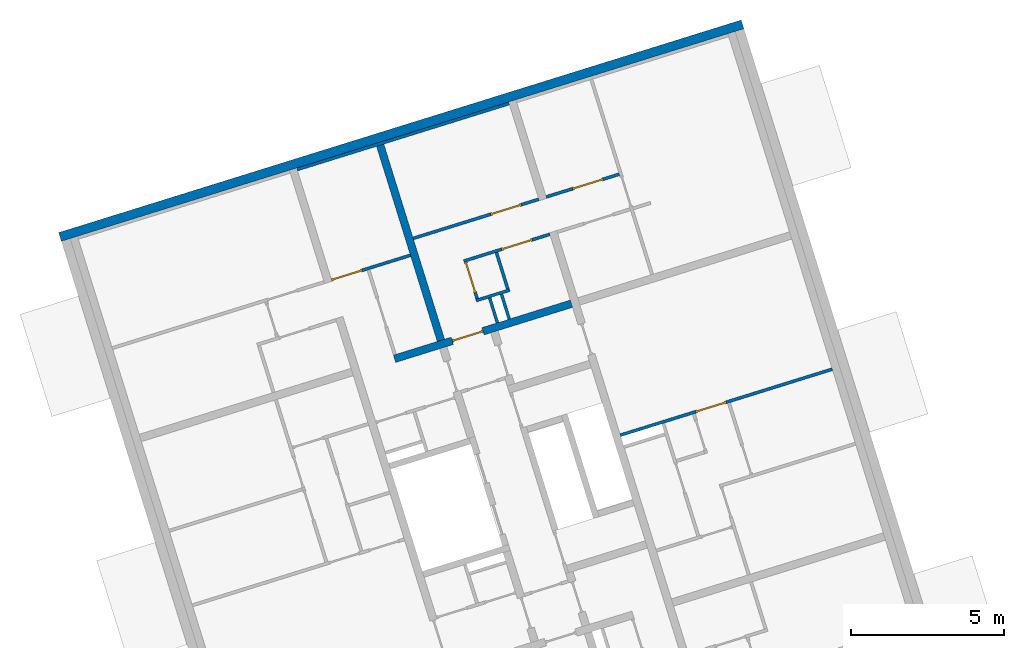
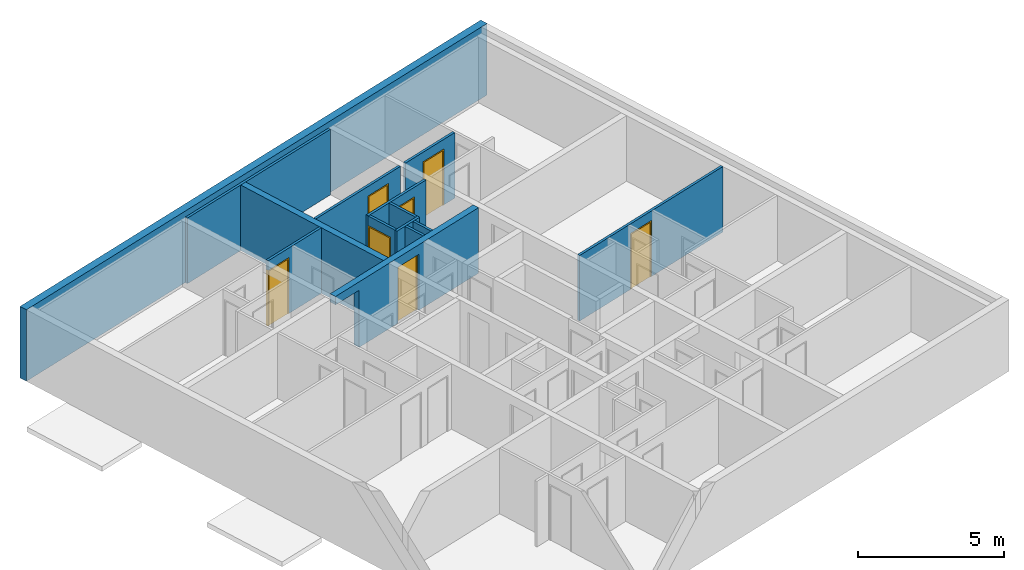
# One storey, part 6 of 9: 14 walls, 7 doors, 9 openings.
"""IFC4 building model written with IfcOpenShell, lengths in metres."""

import ifcopenshell
import ifcopenshell.guid

model = None  # the IFC model being written
_history = None  # IfcOwnerHistory: only IFC2X3 demands one
_inside = {}  # id of a spatial element -> (the spatial element, [elements in it])
_under = {}  # id of a project, library or spatial element -> (it, [spatial elements below it])
_declared = {}  # id of a project -> (the project, [libraries it declares])
_typed = {}  # id of a type object -> (the type object, [elements of that type])
_made_of = {}  # id of a material, layer set ... -> (it, [elements and type objects made of it])


def new_model(schema):
    """Start an empty IFC model of exactly this schema.

    Asked for "IFC4X3", IfcOpenShell would pick the latest addendum, in which some entities
    have other attributes; the version numbers below select the first issue.
    IFC2X3 requires an IfcOwnerHistory on every rooted entity: one is made here for all.
    """
    global model, _history
    if schema == "IFC4X3":
        model = ifcopenshell.file(schema_version=(4, 3, 0, 0))
    else:
        model = ifcopenshell.file(schema=schema)
    _inside.clear()
    _under.clear()
    _declared.clear()
    _typed.clear()
    _made_of.clear()
    _history = None
    if model.schema == "IFC2X3":
        org = make("IfcOrganization", Name="unknown")
        user = make(
            "IfcPersonAndOrganization",
            ThePerson=make("IfcPerson", FamilyName="unknown"),
            TheOrganization=org,
        )
        app = make(
            "IfcApplication",
            ApplicationDeveloper=org,
            Version="unknown",
            ApplicationFullName="unknown",
            ApplicationIdentifier="unknown",
        )
        _history = make(
            "IfcOwnerHistory",
            OwningUser=user,
            OwningApplication=app,
            ChangeAction="ADDED",
            CreationDate=0,
        )
    return model


def make(cls, **values):
    """One entity of the class cls with the attributes given. An attribute that is None is left unset."""
    return model.create_entity(
        cls, **{name: value for name, value in values.items() if value is not None}
    )


def entity(cls, *values):
    """Any entity or typed value of the class cls, its attributes in the order of the schema. None: left unset."""
    e = model.create_entity(cls)
    for i, value in enumerate(values):
        if value is not None:
            e[i] = value
    return e


def rooted(cls, **values):
    """An entity with a GlobalId (a new one), such as an element, a storey or a relation."""
    return make(cls, GlobalId=ifcopenshell.guid.new(), OwnerHistory=_history, **values)


def si_unit(unit_type, name, prefix=None):
    """IfcSIUnit, for example si_unit("LENGTHUNIT", "METRE", prefix="MILLI")."""
    return make("IfcSIUnit", UnitType=unit_type, Prefix=prefix, Name=name)


def converted_unit(unit_type, name, factor, base, dimensions=None, offset=None):
    """IfcConversionBasedUnit, such as the inch: factor (a typed value) times the base unit."""
    return make(
        "IfcConversionBasedUnit"
        if offset is None
        else "IfcConversionBasedUnitWithOffset",
        ConversionOffset=offset,
        Dimensions=None
        if dimensions is None
        else entity("IfcDimensionalExponents", *dimensions),
        UnitType=unit_type,
        Name=name,
        ConversionFactor=make(
            "IfcMeasureWithUnit", ValueComponent=factor, UnitComponent=base
        ),
    )


def assignment(units):
    """IfcUnitAssignment: the units of a project."""
    return None if units is None else make("IfcUnitAssignment", Units=units)


def point(xyz):
    """IfcCartesianPoint."""
    return None if xyz is None else make("IfcCartesianPoint", Coordinates=xyz)


def direction(xyz):
    """IfcDirection."""
    return None if xyz is None else make("IfcDirection", DirectionRatios=xyz)


def frame(location, z_axis=None, x_axis=None):
    """IfcAxis2Placement3D, a coordinate frame: its origin and axes. An axis left out is left unset."""
    return make(
        "IfcAxis2Placement3D",
        Location=point(location),
        Axis=direction(z_axis),
        RefDirection=direction(x_axis),
    )


def origin():
    """The frame at (0, 0, 0) with its axes left unset."""
    return frame((0.0, 0.0, 0.0))


def place(relative_to, where):
    """IfcLocalPlacement: puts the frame where relative to a parent placement (None: the world)."""
    return make(
        "IfcLocalPlacement", PlacementRelTo=relative_to, RelativePlacement=where
    )


def context(
    kind, dimensions, precision=None, world=None, true_north=None, identifier=None
):
    """IfcGeometricRepresentationContext, for example the 3D "Model" context."""
    return make(
        "IfcGeometricRepresentationContext",
        ContextIdentifier=identifier,
        ContextType=kind,
        CoordinateSpaceDimension=dimensions,
        Precision=precision,
        WorldCoordinateSystem=world,
        TrueNorth=true_north,
    )


def subcontext(parent, identifier, kind, view, scale=None):
    """IfcGeometricRepresentationSubContext, for example "Body" below "Model"."""
    return make(
        "IfcGeometricRepresentationSubContext",
        ContextIdentifier=identifier,
        ContextType=kind,
        ParentContext=parent,
        TargetScale=scale,
        TargetView=view,
    )


def project(units=None, contexts=None):
    """IfcProject with its units and contexts."""
    return rooted(
        "IfcProject",
        Name="project",
        RepresentationContexts=contexts,
        UnitsInContext=assignment(units),
    )


def spatial(cls, under=None, at=None, **own):
    """A site, building, storey or space (cls), placed at a placement, below another one or the project."""
    s = rooted(cls, ObjectPlacement=at, **own)
    if under is not None:
        _under.setdefault(under.id(), (under, []))[1].append(s)
    return s


def point_list(points):
    """IfcCartesianPointList2D or 3D."""
    cls = (
        "IfcCartesianPointList2D" if len(points[0]) == 2 else "IfcCartesianPointList3D"
    )
    return make(cls, CoordList=points)


def indexed_curve(points, segments=None, self_intersect=None):
    """IfcIndexedPolyCurve: lines and arcs through numbered points (the first is 1)."""
    return make(
        "IfcIndexedPolyCurve",
        Points=point_list(points),
        Segments=segments,
        SelfIntersect=self_intersect,
    )


def outline(outer, holes=None, kind="AREA"):
    """IfcArbitraryClosedProfileDef: a profile drawn as a closed curve; with holes, ...WithVoids."""
    if holes is None:
        return make("IfcArbitraryClosedProfileDef", ProfileType=kind, OuterCurve=outer)
    return make(
        "IfcArbitraryProfileDefWithVoids",
        ProfileType=kind,
        OuterCurve=outer,
        InnerCurves=holes,
    )


def extrude(swept, where, along, depth):
    """IfcExtrudedAreaSolid: the profile swept, set in the frame where, extruded along a direction by depth."""
    return make(
        "IfcExtrudedAreaSolid",
        SweptArea=swept,
        Position=where,
        ExtrudedDirection=direction(along),
        Depth=depth,
    )


def polygons(points, faces, closed=None, point_numbers=None):
    """IfcPolygonalFaceSet: a face is its outer loop, then its inner loops; points numbered from 1."""
    made = []
    for loops in faces:
        if len(loops) == 1:
            made.append(make("IfcIndexedPolygonalFace", CoordIndex=loops[0]))
        else:
            made.append(
                make(
                    "IfcIndexedPolygonalFaceWithVoids",
                    CoordIndex=loops[0],
                    InnerCoordIndices=loops[1:],
                )
            )
    return make(
        "IfcPolygonalFaceSet",
        Coordinates=point_list(points),
        Closed=closed,
        Faces=made,
        PnIndex=point_numbers,
    )


def shape(context_of_items, identifier, shape_type, items):
    """IfcShapeRepresentation: the items that make up one representation, for example the "Body"."""
    return make(
        "IfcShapeRepresentation",
        ContextOfItems=context_of_items,
        RepresentationIdentifier=identifier,
        RepresentationType=shape_type,
        Items=items,
    )


def source(mapping_origin, context_of_items, identifier, shape_type, items):
    """IfcRepresentationMap: a shape defined once, which mapped items show again and again."""
    return make(
        "IfcRepresentationMap",
        MappingOrigin=mapping_origin,
        MappedRepresentation=shape(context_of_items, identifier, shape_type, items),
    )


def transform(
    local_origin,
    x_axis=None,
    y_axis=None,
    z_axis=None,
    scale=None,
    scale2=None,
    scale3=None,
    uniform=True,
):
    """IfcCartesianTransformationOperator3D, or its non-uniform kind. x_axis, y_axis, z_axis: its Axis1, 2, 3."""
    if uniform:
        return make(
            "IfcCartesianTransformationOperator3D",
            Axis1=direction(x_axis),
            Axis2=direction(y_axis),
            LocalOrigin=point(local_origin),
            Scale=scale,
            Axis3=direction(z_axis),
        )
    return make(
        "IfcCartesianTransformationOperator3DnonUniform",
        Axis1=direction(x_axis),
        Axis2=direction(y_axis),
        LocalOrigin=point(local_origin),
        Scale=scale,
        Axis3=direction(z_axis),
        Scale2=scale2,
        Scale3=scale3,
    )


def mapped(mapping_source, mapping_target):
    """IfcMappedItem: shows the shape of a source again, moved by a transform."""
    return make(
        "IfcMappedItem", MappingSource=mapping_source, MappingTarget=mapping_target
    )


def material(Name=None, Category=None):
    """IfcMaterial."""
    return make("IfcMaterial", Name=Name, Category=Category)


def constituent(of_material, Name=None, Category=None, fraction=None):
    """IfcMaterialConstituent: one of the materials an element consists of."""
    return make(
        "IfcMaterialConstituent",
        Name=Name,
        Material=of_material,
        Fraction=fraction,
        Category=Category,
    )


def constituent_set(constituents=None, Name=None):
    """IfcMaterialConstituentSet."""
    return make(
        "IfcMaterialConstituentSet", Name=Name, MaterialConstituents=constituents
    )


def made_of(thing, what):
    """Note that an element or type object is made of a material, layer set ...; save() writes the relation."""
    if what is not None:
        _made_of.setdefault(what.id(), (what, []))[1].append(thing)
    return thing


def type_object(cls, material=None, **own):
    """A type object (cls), such as IfcWallType, which elements share."""
    return made_of(rooted(cls, **own), material)


def type_shapes(of_type, sources):
    """Give a type object the sources (RepresentationMaps) that its elements show as mapped items."""
    of_type.RepresentationMaps = sources


def element(
    cls,
    number,
    at=None,
    inside=None,
    cuts=None,
    type_object=None,
    material=None,
    context=None,
    identifier="Body",
    shape_type=None,
    held_by="IfcProductDefinitionShape",
    body=None,
    shapes=None,
    **own,
):
    """One element of the class cls, such as IfcWall. Its Tag is "e" and its number.

    at: its placement. inside: the storey or other place that contains it. cuts: it is an
    opening in that element (IfcRelVoidsElement). A single representation is given by context,
    identifier, shape_type and body (its items); several are given by shapes. held_by: the class
    of the entity that holds the representations. save() writes the other relations.
    """
    e = rooted(cls, Tag="e%d" % number, ObjectPlacement=at, **own)
    if body is not None:
        shapes = [shape(context, identifier, shape_type, body)]
    if shapes is not None:
        e.Representation = make(held_by, Representations=shapes)
    if inside is not None:
        _inside.setdefault(inside.id(), (inside, []))[1].append(e)
    if cuts is not None:
        rooted(
            "IfcRelVoidsElement", RelatingBuildingElement=cuts, RelatedOpeningElement=e
        )
    if type_object is not None:
        _typed.setdefault(type_object.id(), (type_object, []))[1].append(e)
    return made_of(e, material)


def fill(opening, filler):
    """IfcRelFillsElement: the door or window that sits in an opening."""
    return rooted(
        "IfcRelFillsElement",
        RelatingOpeningElement=opening,
        RelatedBuildingElement=filler,
    )


def aggregate(whole, parts):
    """IfcRelAggregates: a whole, such as a stair, and the parts it consists of."""
    return rooted("IfcRelAggregates", RelatingObject=whole, RelatedObjects=parts)


def save(model, path):
    """Write the relations noted so far, then the file.

    IfcRelAggregates (storeys below a building ...), IfcRelContainedInSpatialStructure (elements
    in a storey), IfcRelDefinesByType, IfcRelAssociatesMaterial and IfcRelDeclares: one each for
    every whole, place, type object, material and project.
    """
    for whole, parts in _under.values():
        aggregate(whole, parts)
    for where, things in _inside.values():
        rooted(
            "IfcRelContainedInSpatialStructure",
            RelatedElements=things,
            RelatingStructure=where,
        )
    for kind, things in _typed.values():
        rooted("IfcRelDefinesByType", RelatedObjects=things, RelatingType=kind)
    for what, things in _made_of.values():
        rooted("IfcRelAssociatesMaterial", RelatedObjects=things, RelatingMaterial=what)
    for by, libraries in _declared.values():
        rooted("IfcRelDeclares", RelatingContext=by, RelatedDefinitions=libraries)
    model.write(path)


model = new_model("IFC4")

# Units and contexts
model_context = context("Model", 3, precision=1e-05, world=origin(), true_north=direction((6.12323399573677e-17, 1.0)))
body_context = subcontext(model_context, "Body", "Model", "MODEL_VIEW")
ifc_project = project(units=[si_unit("LENGTHUNIT", "METRE"), si_unit("AREAUNIT", "SQUARE_METRE"), si_unit("VOLUMEUNIT", "CUBIC_METRE"), converted_unit("PLANEANGLEUNIT", "DEGREE", entity("IfcPlaneAngleMeasure", 0.0174532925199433), si_unit("PLANEANGLEUNIT", "RADIAN"), dimensions=[0, 0, 0, 0, 0, 0, 0])], contexts=[model_context])

# Site, building, storey
site_placement = place(None, frame((13.1347999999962, 11.9886000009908, 0.0), z_axis=(0.0, 0.0, 1.0), x_axis=(0.954770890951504, 0.297342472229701, 0.0)))
site = spatial("IfcSite", under=ifc_project, at=site_placement, Name="Schiehaven", CompositionType="ELEMENT")
building_placement = place(site_placement, origin())
building = spatial("IfcBuilding", under=site, at=building_placement, Name="VORM huis", CompositionType="ELEMENT")
storey_placement = place(building_placement, frame((0.0, 0.0, 24.9)))
storey = spatial("IfcBuildingStorey", under=building, at=storey_placement, Name="08 achtste verdieping", CompositionType="ELEMENT", Elevation=24.9)

# Wall, openings, door
ifc_material_1 = material(Name="beton_gewapend_ihw", Category="Miscellaneous")
wall_type_1 = type_object("IfcWallType", Name="Basic Wall:28_WA_skelet_wand 250mm_gen", PredefinedType="STANDARD")
wall_1_placement = place(storey_placement, frame((12.6250000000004, 22.1999999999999, 0.0)))
wall_1 = element("IfcWall", 1, at=wall_1_placement, inside=storey, type_object=wall_type_1, material=ifc_material_1, Name="Constructieve wand", ObjectType="Wand", PredefinedType="NOTDEFINED", context=body_context, shape_type="Tessellation", body=[
    polygons([(4.225, -0.124999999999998, 2.34999999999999), (4.225, -0.124999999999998, 0.0), (7.25, -0.124999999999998, 0.0), (7.25, -0.124999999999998, 2.75), (-9.32382171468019e-16, -0.124999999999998, 2.75), (1.23335208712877e-15, -0.124999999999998, 2.4), (1.2, -0.124999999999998, 2.4), (1.2, -0.124999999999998, 0.0), (3.175, -0.124999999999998, 0.0), (3.175, -0.124999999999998, 2.34999999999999), (7.25, 0.125000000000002, 0.0), (4.225, 0.125000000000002, 0.0), (4.225, 0.125000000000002, 2.34999999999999), (3.175, 0.125000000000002, 2.34999999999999), (3.175, 0.125000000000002, 0.0), (1.2, 0.124999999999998, 0.0), (1.2, 0.125000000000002, 2.4), (1.38467104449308e-15, 0.125000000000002, 2.4), (1.38467104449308e-15, 0.125000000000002, 2.75), (7.25, 0.125000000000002, 2.75)], [[[1, 2, 3, 4, 5, 6, 7, 8, 9, 10]], [[11, 12, 13, 14, 15, 16, 17, 18, 19, 20]], [[9, 8, 16, 15]], [[5, 4, 20, 19]], [[5, 19, 18, 6]], [[15, 14, 10, 9]], [[13, 12, 2, 1]], [[14, 13, 1, 10]], [[7, 17, 16, 8]], [[17, 7, 6, 18]], [[4, 3, 11, 20]], [[3, 2, 12, 11]]], closed=True),
])
opening_1_placement = place(wall_1_placement, origin())
element("IfcOpeningElement", 2, at=opening_1_placement, cuts=wall_1, Name="Constructieve wand", PredefinedType="OPENING", context=body_context, shape_type="SweptSolid", body=[
    extrude(outline(indexed_curve([(-1.2, -0.6), (1.2, -0.6), (1.2, 0.6), (-1.2, 0.6), (-1.2, -0.6)], self_intersect=False)), frame((0.599999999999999, -0.125000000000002, 1.2), z_axis=(0.0, 1.0, 0.0), x_axis=(0.0, 0.0, -1.0)), (0.0, 0.0, 1.0), 0.250000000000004),
])
opening_2_placement = place(wall_1_placement, frame((4.22500000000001, 0.124999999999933, 0.0)))
opening_2 = element("IfcOpeningElement", 3, at=opening_2_placement, cuts=wall_1, Name="Woningtoegangsdeur", PredefinedType="OPENING", context=body_context, shape_type="SweptSolid", body=[
    extrude(outline(indexed_curve([(2.34999999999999, 1.05), (0.0, 1.05), (0.0, 1.08286712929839e-15), (2.34999999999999, 1.08286712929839e-15), (2.34999999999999, 1.05)], self_intersect=False)), frame((0.0, 0.0, 0.0), z_axis=(0.0, -1.0, 0.0), x_axis=(0.0, 0.0, 1.0)), (0.0, 0.0, 1.0), 0.25),
])
ifc_material_2 = material(Name="PD_a_binnenwandopeningen", Category="Miscellaneous")
ifc_constituent_1 = constituent(ifc_material_2, Name="PD_a_binnenwandopeningen", Category="Miscellaneous")
ifc_material_3 = material(Name="metaal_aluminium_ntb", Category="Miscellaneous")
ifc_constituent_2 = constituent(ifc_material_3, Name="metaal_aluminium_ntb", Category="Miscellaneous")
ifc_constituent_set_1 = constituent_set(constituents=[ifc_constituent_1, ifc_constituent_2])
door_type_1 = type_object("IfcDoorType", Name="32_DO_binnendeur enkel:woningtoegangsdeur", OperationType="REVOLVING", PredefinedType="DOOR")
shared_shape_1 = source(origin(), body_context, "Body", "SweptSolid", [
    extrude(outline(indexed_curve([(-1.16249999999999, -0.525000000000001), (1.18749999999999, -0.525), (1.18749999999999, 0.525000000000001), (-1.16249999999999, 0.525000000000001), (-1.16249999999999, 0.475), (1.13749999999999, 0.475), (1.13749999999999, -0.475), (-1.16249999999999, -0.475), (-1.16249999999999, -0.525000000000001)], self_intersect=False)), frame((0.525000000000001, 0.0749999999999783, 1.16249999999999), z_axis=(0.0, 1.0, 0.0), x_axis=(0.0, 0.0, 1.0)), (0.0, 0.0, 1.0), 0.1),
    extrude(outline(indexed_curve([(-0.025, -0.475), (0.025, -0.475), (0.025, 0.475), (-0.025, 0.475), (-0.025, -0.475)], self_intersect=False)), frame((0.525000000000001, 0.12499999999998, 0.0), z_axis=(0.0, 0.0, 1.0), x_axis=(0.0, 1.0, 0.0)), (0.0, 0.0, 1.0), 2.29999999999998),
])
door_1_placement = place(opening_2_placement, frame((0.0, 0.0, 0.0), z_axis=(0.0, 0.0, 1.0), x_axis=(-1.0, 0.0, 0.0)))
door_1 = element("IfcDoor", 4, at=door_1_placement, inside=storey, type_object=door_type_1, material=ifc_constituent_set_1, Name="Woningtoegangsdeur", ObjectType="Deur", OperationType="REVOLVING", OverallHeight=2.34999999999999, OverallWidth=1.05, PredefinedType="DOOR", context=body_context, shape_type="MappedRepresentation", body=[
    mapped(shared_shape_1, transform((0.0, 0.0, 0.0), scale=1.0)),
])
fill(opening_2, door_1)

# Walls
ifc_material_4 = material(Name="ntb_ntb_ntb", Category="Miscellaneous")
wall_type_2 = type_object("IfcWallType", Name="Basic Wall:21_WA_gevel_binnenspouwwand 100mm_gen", PredefinedType="STANDARD")
wall_2_placement = place(storey_placement, frame((19.875, 29.05, 0.0), z_axis=(0.0, 0.0, 1.0), x_axis=(-1.0, 0.0, 0.0)))
element("IfcWall", 5, at=wall_2_placement, inside=storey, type_object=wall_type_2, material=ifc_material_4, Name="Binnenspouwblad", ObjectType="Wand", PredefinedType="NOTDEFINED", context=body_context, shape_type="SweptSolid", body=[
    extrude(outline(indexed_curve([(7.24999999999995, 0.0500000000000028), (-8.07179175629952e-18, 0.0500000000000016), (8.07179175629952e-18, -0.0500000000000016), (7.24999999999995, -0.0500000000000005), (7.24999999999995, 0.0500000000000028)], self_intersect=False)), origin(), (0.0, 0.0, 1.0), 2.75),
])
wall_type_3 = type_object("IfcWallType", Name="Basic Wall: 300mm_gen", PredefinedType="STANDARD")
wall_3_placement = place(storey_placement, frame((4.57500000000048, 29.25, 0.0)))
element("IfcWall", 6, at=wall_3_placement, inside=storey, type_object=wall_type_3, material=ifc_material_4, Name="Gevelwand", ObjectType="Wand", PredefinedType="NOTDEFINED", context=body_context, shape_type="SweptSolid", body=[
    extrude(outline(indexed_curve([(23.35, 0.149999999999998), (-1.57429718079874e-16, 0.150000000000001), (1.57429718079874e-16, -0.150000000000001), (23.35, -0.150000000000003), (23.35, 0.149999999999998)], self_intersect=False)), origin(), (0.0, 0.0, 1.0), 3.0),
])
wall_type_4 = type_object("IfcWallType", Name="Basic Wall:22_WA_afbouw_binnenwand 250mm_gen", PredefinedType="STANDARD")
wall_4_placement = place(storey_placement, frame((15.4500000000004, 22.3249999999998, 0.0), z_axis=(0.0, 0.0, 1.0), x_axis=(0.0, 1.0, 0.0)))
element("IfcWall", 7, at=wall_4_placement, inside=storey, type_object=wall_type_4, material=ifc_material_4, Name="Binnenwand", ObjectType="Wand", PredefinedType="NOTDEFINED", context=body_context, shape_type="SweptSolid", body=[
    extrude(outline(indexed_curve([(6.67500000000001, 0.124999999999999), (2.02524027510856e-15, 0.125), (-2.02524027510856e-15, -0.125), (6.67500000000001, -0.125), (6.67500000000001, 0.124999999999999)], self_intersect=False)), origin(), (0.0, 0.0, 1.0), 2.75),
])

# Wall, opening, door
wall_type_5 = type_object("IfcWallType", Name="Basic Wall:22_WA_afbouw_binnenwand 100mm_gen", PredefinedType="STANDARD")
wall_5_placement = place(storey_placement, frame((19.8750000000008, 25.7750000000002, 0.0), z_axis=(0.0, 0.0, 1.0), x_axis=(-1.0, 0.0, 0.0)))
wall_5 = element("IfcWall", 8, at=wall_5_placement, inside=storey, type_object=wall_type_5, material=ifc_material_4, Name="Binnenwand", ObjectType="Wand", PredefinedType="NOTDEFINED", context=body_context, shape_type="Tessellation", body=[
    polygons([(1.41600119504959e-15, -0.0499999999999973, 0.0), (0.599999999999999, -0.0499999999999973, 0.0), (0.600000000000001, -0.0499999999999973, 2.34999999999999), (1.65, -0.0500000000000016, 2.34999999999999), (1.65, -0.0500000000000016, 0.0), (4.30000000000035, -0.0500000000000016, 0.0), (4.30000000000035, -0.0500000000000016, 2.75), (1.41600119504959e-15, -0.0499999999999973, 2.75), (0.600000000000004, 0.0500000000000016, 2.34999999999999), (0.600000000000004, 0.0500000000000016, 0.0), (-3.19070089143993e-17, 0.0500000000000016, 0.0), (-3.19070089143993e-17, 0.0500000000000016, 2.75), (4.30000000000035, 0.0499999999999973, 2.75), (4.30000000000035, 0.0499999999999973, 0.0), (1.65, 0.0499999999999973, 0.0), (1.65, 0.0499999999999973, 2.34999999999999)], [[[1, 2, 3, 4, 5, 6, 7, 8]], [[9, 10, 11, 12, 13, 14, 15, 16]], [[11, 10, 2, 1]], [[7, 6, 14, 13]], [[8, 7, 13, 12]], [[1, 8, 12, 11]], [[5, 4, 16, 15]], [[3, 2, 10, 9]], [[4, 3, 9, 16]], [[15, 14, 6, 5]]], closed=True),
])
opening_3_placement = place(wall_5_placement, frame((0.599999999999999, -0.0500000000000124, 0.0)))
opening_3 = element("IfcOpeningElement", 9, at=opening_3_placement, cuts=wall_5, Name="Binnendeur", PredefinedType="OPENING", context=body_context, shape_type="SweptSolid", body=[
    extrude(outline(indexed_curve([(2.34999999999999, 1.05), (0.0, 1.05), (0.0, 1.35358391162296e-15), (2.34999999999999, 1.35358391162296e-15), (2.34999999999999, 1.05)], self_intersect=False)), frame((0.0, 0.0, 0.0), z_axis=(0.0, 1.0, 0.0), x_axis=(0.0, 0.0, 1.0)), (0.0, 0.0, 1.0), 0.1),
])
ifc_constituent_3 = constituent(ifc_material_2, Name="PD_a_binnenwandopeningen", Category="Miscellaneous")
ifc_constituent_4 = constituent(ifc_material_3, Name="metaal_aluminium_ntb", Category="Miscellaneous")
ifc_constituent_set_2 = constituent_set(constituents=[ifc_constituent_3, ifc_constituent_4])
door_type_2 = type_object("IfcDoorType", Name="32_DO_binnendeur enkel:binnendeur", OperationType="REVOLVING", PredefinedType="DOOR")
shared_shape_2 = source(origin(), body_context, "Body", "SweptSolid", [
    extrude(outline(indexed_curve([(-1.16249999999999, -0.525000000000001), (1.18749999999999, -0.525), (1.18749999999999, 0.525), (-1.16249999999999, 0.525), (-1.16249999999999, 0.475), (1.13749999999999, 0.475), (1.13749999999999, -0.475), (-1.16249999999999, -0.475), (-1.16249999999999, -0.525000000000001)], self_intersect=False)), frame((0.525000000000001, 0.0, 1.16249999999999), z_axis=(0.0, 1.0, 0.0), x_axis=(0.0, 0.0, 1.0)), (0.0, 0.0, 1.0), 0.1),
    extrude(outline(indexed_curve([(-0.025, -0.475), (0.025, -0.475), (0.025, 0.475), (-0.025, 0.475), (-0.025, -0.475)], self_intersect=False)), frame((0.525000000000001, 0.0499999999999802, 0.0), z_axis=(0.0, 0.0, 1.0), x_axis=(0.0, 1.0, 0.0)), (0.0, 0.0, 1.0), 2.29999999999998),
])
type_shapes(door_type_2, [shared_shape_2])
door_2_placement = place(opening_3_placement, origin())
door_2 = element("IfcDoor", 10, at=door_2_placement, inside=storey, type_object=door_type_2, material=ifc_constituent_set_2, Name="Binnendeur", ObjectType="Deur", OperationType="REVOLVING", OverallHeight=2.34999999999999, OverallWidth=1.05, PredefinedType="DOOR", context=body_context, shape_type="MappedRepresentation", body=[
    mapped(shared_shape_2, transform((0.0, 0.0, 0.0), scale=1.0)),
])
fill(opening_3, door_2)

# Wall, openings, door
wall_6_placement = place(storey_placement, frame((19.8750000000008, 24.5750000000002, 0.0), z_axis=(0.0, 0.0, 1.0), x_axis=(-1.0, 0.0, 0.0)))
wall_6 = element("IfcWall", 11, at=wall_6_placement, inside=storey, type_object=wall_type_5, material=ifc_material_4, Name="Binnenwand", ObjectType="Wand", PredefinedType="NOTDEFINED", context=body_context, shape_type="Tessellation", body=[
    polygons([(1.65, -0.0500000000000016, 2.34999999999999), (1.65, -0.0500000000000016, 0.0), (2.94100000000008, -0.0500000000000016, 0.0), (2.94100000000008, -0.0500000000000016, 2.75), (1.36697681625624e-15, -0.0499999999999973, 2.75), (1.36697681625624e-15, -0.0499999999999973, 0.0), (0.599999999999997, -0.0499999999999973, 0.0), (0.599999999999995, -0.0499999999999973, 2.34999999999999), (2.94100000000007, 0.0499999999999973, 0.0), (1.89100000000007, 0.0499999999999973, 0.0), (1.79100000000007, 0.0500000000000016, 0.0), (1.65, 0.0499999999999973, 0.0), (1.65, 0.0499999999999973, 2.34999999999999), (0.6, 0.0500000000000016, 2.34999999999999), (0.6, 0.0500000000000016, 0.0), (-8.09313877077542e-17, 0.0500000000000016, 0.0), (-8.09313877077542e-17, 0.0500000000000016, 2.75), (1.79100000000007, 0.0500000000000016, 2.75), (1.89100000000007, 0.0499999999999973, 2.75), (2.84100000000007, 0.0499999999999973, 2.75), (2.94100000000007, 0.0499999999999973, 2.75), (2.94100000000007, 0.0499999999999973, 2.34999999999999)], [[[1, 2, 3, 4, 5, 6, 7, 8]], [[9, 10, 11, 12, 13, 14, 15, 16, 17, 18, 19, 20, 21, 22]], [[7, 6, 16, 15]], [[5, 4, 21, 20, 19, 18, 17]], [[6, 5, 17, 16]], [[15, 14, 8, 7]], [[13, 12, 2, 1]], [[14, 13, 1, 8]], [[4, 3, 9, 22, 21]], [[3, 2, 12, 11, 10, 9]]], closed=True),
])
opening_4_placement = place(wall_6_placement, origin())
element("IfcOpeningElement", 12, at=opening_4_placement, cuts=wall_6, Name="Binnendeur", PredefinedType="OPENING", context=body_context, shape_type="SweptSolid", body=[
    extrude(outline(indexed_curve([(-0.0499999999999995, -1.17499999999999), (0.0500000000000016, -1.17499999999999), (0.0500000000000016, 1.17499999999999), (-0.0499999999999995, 1.17499999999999), (-0.0499999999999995, -1.17499999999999)], self_intersect=False)), frame((2.89100000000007, 0.0499999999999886, 1.17499999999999), z_axis=(0.0, 1.0, 0.0), x_axis=(-1.0, 0.0, 0.0)), (0.0, 0.0, 1.0), 1.05),
])
opening_5_placement = place(wall_6_placement, frame((1.65, 0.0499999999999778, 0.0)))
opening_5 = element("IfcOpeningElement", 13, at=opening_5_placement, cuts=wall_6, Name="Binnendeur", PredefinedType="OPENING", context=body_context, shape_type="SweptSolid", body=[
    extrude(outline(indexed_curve([(2.34999999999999, 1.05), (0.0, 1.05), (0.0, 1.35358391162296e-15), (2.34999999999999, 1.35358391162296e-15), (2.34999999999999, 1.05)], self_intersect=False)), frame((0.0, 0.0, 0.0), z_axis=(0.0, -1.0, 0.0), x_axis=(0.0, 0.0, 1.0)), (0.0, 0.0, 1.0), 0.1),
])
ifc_constituent_5 = constituent(ifc_material_2, Name="PD_a_binnenwandopeningen", Category="Miscellaneous")
ifc_constituent_6 = constituent(ifc_material_3, Name="metaal_aluminium_ntb", Category="Miscellaneous")
ifc_constituent_set_3 = constituent_set(constituents=[ifc_constituent_5, ifc_constituent_6])
door_3_placement = place(opening_5_placement, frame((0.0, 0.0, 0.0), z_axis=(0.0, 0.0, 1.0), x_axis=(-1.0, 0.0, 0.0)))
door_3 = element("IfcDoor", 14, at=door_3_placement, inside=storey, type_object=door_type_2, material=ifc_constituent_set_3, Name="Binnendeur", ObjectType="Deur", OperationType="REVOLVING", OverallHeight=2.34999999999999, OverallWidth=1.05, PredefinedType="DOOR", context=body_context, shape_type="MappedRepresentation", body=[
    mapped(shared_shape_2, transform((0.0, 0.0, 0.0), scale=1.0)),
])
fill(opening_5, door_3)

# Wall, opening, door
wall_7_placement = place(storey_placement, frame((16.9840000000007, 24.5250000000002, 0.0), z_axis=(0.0, 0.0, 1.0), x_axis=(0.0, -1.0, 0.0)))
wall_7 = element("IfcWall", 15, at=wall_7_placement, inside=storey, type_object=wall_type_5, material=ifc_material_4, Name="Binnenwand", ObjectType="Wand", PredefinedType="NOTDEFINED", context=body_context, shape_type="Tessellation", body=[
    polygons([(1.24999999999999, -0.0500000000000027, 2.75), (0.0, -0.0500000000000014, 2.75), (0.0, -0.0500000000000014, 2.34999999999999), (1.05, -0.050000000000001, 2.34999999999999), (1.05, -0.050000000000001, 0.0), (1.24999999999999, -0.0500000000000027, 0.0), (0.0, 0.0499999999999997, 2.75), (1.25, 0.0500000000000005, 2.75), (1.25, 0.0500000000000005, 0.0), (1.05, 0.0500000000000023, 0.0), (1.05, 0.0500000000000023, 2.34999999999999), (0.0, 0.0499999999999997, 2.34999999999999)], [[[1, 2, 3, 4, 5, 6]], [[7, 8, 9, 10, 11, 12]], [[9, 6, 5, 10]], [[2, 1, 8, 7]], [[4, 11, 10, 5]], [[11, 4, 3, 12]], [[1, 6, 9, 8]], [[2, 7, 12, 3]]], closed=True),
])
opening_6_placement = place(wall_7_placement, frame((1.05, 0.0499999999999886, 0.0)))
opening_6 = element("IfcOpeningElement", 16, at=opening_6_placement, cuts=wall_7, Name="Binnendeur", PredefinedType="OPENING", context=body_context, shape_type="SweptSolid", body=[
    extrude(outline(indexed_curve([(2.34999999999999, 1.05), (0.0, 1.05), (0.0, 0.0), (2.34999999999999, 0.0), (2.34999999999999, 1.05)], self_intersect=False)), frame((0.0, 0.0, 0.0), z_axis=(0.0, -1.0, 0.0), x_axis=(0.0, 0.0, 1.0)), (0.0, 0.0, 1.0), 0.1),
])
ifc_constituent_7 = constituent(ifc_material_2, Name="PD_a_binnenwandopeningen", Category="Miscellaneous")
ifc_constituent_8 = constituent(ifc_material_3, Name="metaal_aluminium_ntb", Category="Miscellaneous")
ifc_constituent_set_4 = constituent_set(constituents=[ifc_constituent_7, ifc_constituent_8])
door_4_placement = place(opening_6_placement, frame((0.0, 0.0, 0.0), z_axis=(0.0, 0.0, 1.0), x_axis=(-1.0, 0.0, 0.0)))
door_4 = element("IfcDoor", 17, at=door_4_placement, inside=storey, type_object=door_type_2, material=ifc_constituent_set_4, Name="Binnendeur", ObjectType="Deur", OperationType="REVOLVING", OverallHeight=2.34999999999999, OverallWidth=1.05, PredefinedType="DOOR", context=body_context, shape_type="MappedRepresentation", body=[
    mapped(shared_shape_2, transform((0.0, 0.0, 0.0), scale=1.0)),
])
fill(opening_6, door_4)

# Walls
wall_8_placement = place(storey_placement, frame((18.0840000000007, 23.2250000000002, 0.0), z_axis=(0.0, 0.0, 1.0), x_axis=(-1.0, 0.0, 0.0)))
element("IfcWall", 18, at=wall_8_placement, inside=storey, type_object=wall_type_5, material=ifc_material_4, Name="Binnenwand", ObjectType="Wand", PredefinedType="NOTDEFINED", context=body_context, shape_type="SweptSolid", body=[
    extrude(outline(indexed_curve([(1.15000000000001, 0.050000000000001), (-7.23954101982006e-16, 0.0500000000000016), (7.23954101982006e-16, -0.0500000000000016), (1.15000000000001, -0.0500000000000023), (1.15000000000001, 0.050000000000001)], self_intersect=False)), origin(), (0.0, 0.0, 1.0), 2.75),
])
wall_9_placement = place(storey_placement, frame((18.0340000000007, 23.2750000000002, 0.0), z_axis=(0.0, 0.0, 1.0), x_axis=(0.0, 1.0, 0.0)))
element("IfcWall", 19, at=wall_9_placement, inside=storey, type_object=wall_type_5, material=ifc_material_4, Name="Binnenwand", ObjectType="Wand", PredefinedType="NOTDEFINED", context=body_context, shape_type="SweptSolid", body=[
    extrude(outline(indexed_curve([(1.25, 0.049999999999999), (-6.72839576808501e-16, 0.0499999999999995), (6.72839576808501e-16, -0.0499999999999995), (1.25, -0.05), (1.25, 0.049999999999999)], self_intersect=False)), origin(), (0.0, 0.0, 1.0), 2.75),
])
wall_10_placement = place(storey_placement, frame((17.3840000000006, 22.3250000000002, 0.0), z_axis=(0.0, 0.0, 1.0), x_axis=(0.0, 1.0, 0.0)))
element("IfcWall", 20, at=wall_10_placement, inside=storey, type_object=wall_type_5, material=ifc_material_4, Name="Binnenwand", ObjectType="Wand", PredefinedType="NOTDEFINED", context=body_context, shape_type="SweptSolid", body=[
    extrude(outline(indexed_curve([(0.85000000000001, 0.0500000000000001), (-6.72839576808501e-16, 0.0499999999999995), (6.72839576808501e-16, -0.0499999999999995), (0.850000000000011, -0.0499999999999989), (0.85000000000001, 0.0500000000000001)], self_intersect=False)), origin(), (0.0, 0.0, 1.0), 2.75),
])

# Wall, opening, door
wall_11_placement = place(storey_placement, frame((20.1250000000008, 25.7750000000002, 0.0)))
wall_11 = element("IfcWall", 21, at=wall_11_placement, inside=storey, type_object=wall_type_5, material=ifc_material_4, Name="Binnenwand", ObjectType="Wand", PredefinedType="NOTDEFINED", context=body_context, shape_type="Tessellation", body=[
    polygons([(-4.45664919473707e-16, -0.0499999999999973, 0.0), (0.899999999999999, -0.049999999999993, 0.0), (0.899999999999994, -0.049999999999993, 2.34999999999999), (1.95, -0.0499999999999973, 2.34999999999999), (1.95, -0.0499999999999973, 0.0), (2.5, -0.049999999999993, 0.0), (2.5, -0.049999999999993, 2.75), (-4.45664919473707e-16, -0.0499999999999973, 2.75), (0.899999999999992, 0.050000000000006, 2.34999999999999), (0.899999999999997, 0.050000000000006, 0.0), (-2.31636917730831e-15, 0.0500000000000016, 0.0), (-2.31636917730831e-15, 0.0500000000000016, 2.75), (2.50000000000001, 0.050000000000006, 2.75), (2.50000000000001, 0.050000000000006, 0.0), (1.95, 0.0500000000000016, 0.0), (1.95, 0.0500000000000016, 2.34999999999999)], [[[1, 2, 3, 4, 5, 6, 7, 8]], [[9, 10, 11, 12, 13, 14, 15, 16]], [[11, 10, 2, 1]], [[8, 7, 13, 12]], [[1, 8, 12, 11]], [[5, 4, 16, 15]], [[3, 2, 10, 9]], [[4, 3, 9, 16]], [[7, 6, 14, 13]], [[15, 14, 6, 5]]], closed=True),
])
opening_7_placement = place(wall_11_placement, frame((1.95, 0.049999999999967, 0.0)))
opening_7 = element("IfcOpeningElement", 22, at=opening_7_placement, cuts=wall_11, Name="Binnendeur", PredefinedType="OPENING", context=body_context, shape_type="SweptSolid", body=[
    extrude(outline(indexed_curve([(2.34999999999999, 0.0), (2.34999999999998, 1.05), (0.0, 1.05), (2.16573425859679e-15, 0.0), (2.34999999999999, 0.0)], self_intersect=False)), frame((0.0, 0.0, 0.0), z_axis=(0.0, -1.0, 0.0), x_axis=(0.0, 0.0, 1.0)), (0.0, 0.0, 1.0), 0.1),
])
ifc_constituent_9 = constituent(ifc_material_2, Name="PD_a_binnenwandopeningen", Category="Miscellaneous")
ifc_constituent_10 = constituent(ifc_material_3, Name="metaal_aluminium_ntb", Category="Miscellaneous")
ifc_constituent_set_5 = constituent_set(constituents=[ifc_constituent_9, ifc_constituent_10])
shared_shape_3 = source(origin(), body_context, "Body", "SweptSolid", [
    extrude(outline(indexed_curve([(0.475, -1.16249999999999), (0.525, -1.16249999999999), (0.525, 1.18749999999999), (-0.525, 1.18749999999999), (-0.525, -1.16249999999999), (-0.475, -1.16249999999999), (-0.475, 1.13749999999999), (0.475, 1.13749999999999), (0.475, -1.16249999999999)], self_intersect=False)), frame((0.525000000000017, 0.100000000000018, 1.16249999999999), z_axis=(0.0, -1.0, 0.0), x_axis=(1.0, 0.0, 0.0)), (0.0, 0.0, 1.0), 0.1),
    extrude(outline(indexed_curve([(-0.475, -0.025), (0.475, -0.025), (0.475, 0.025), (-0.475, 0.025), (-0.475, -0.025)], self_intersect=False)), frame((0.525000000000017, 0.0499999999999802, 0.0)), (0.0, 0.0, 1.0), 2.29999999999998),
])
door_5_placement = place(opening_7_placement, frame((0.0, 0.0, 0.0), z_axis=(0.0, 0.0, 1.0), x_axis=(-1.0, 0.0, 0.0)))
door_5 = element("IfcDoor", 23, at=door_5_placement, inside=storey, type_object=door_type_2, material=ifc_constituent_set_5, Name="Binnendeur", ObjectType="Deur", OperationType="REVOLVING", OverallHeight=2.34999999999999, OverallWidth=1.05, PredefinedType="DOOR", context=body_context, shape_type="MappedRepresentation", body=[
    mapped(shared_shape_3, transform((0.0, 0.0, 0.0), scale=1.0)),
])
fill(opening_7, door_5)

# Wall
wall_12_placement = place(storey_placement, frame((17.7840000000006, 22.3250000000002, 0.0), z_axis=(0.0, 0.0, 1.0), x_axis=(0.0, 1.0, 0.0)))
element("IfcWall", 24, at=wall_12_placement, inside=storey, type_object=wall_type_5, material=ifc_material_4, Name="Binnenwand", ObjectType="Wand", PredefinedType="NOTDEFINED", context=body_context, shape_type="SweptSolid", body=[
    extrude(outline(indexed_curve([(0.850000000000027, 0.0500000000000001), (-6.72839576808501e-16, 0.0499999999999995), (6.72839576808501e-16, -0.0499999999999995), (0.850000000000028, -0.0499999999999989), (0.850000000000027, 0.0500000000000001)], self_intersect=False)), origin(), (0.0, 0.0, 1.0), 2.75),
])

# Wall, opening, door
wall_13_placement = place(storey_placement, frame((20.1228357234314, 17.625, 0.0)))
wall_13 = element("IfcWall", 25, at=wall_13_placement, inside=storey, type_object=wall_type_5, material=ifc_material_4, Name="Binnenwand", ObjectType="Wand", PredefinedType="NOTDEFINED", context=body_context, shape_type="Tessellation", body=[
    polygons([(-1.21241354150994e-15, -0.0500000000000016, 0.0), (1.40216427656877, -0.0500000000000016, 0.0), (1.50216427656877, -0.0499999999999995, 0.0), (2.45216427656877, -0.0500000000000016, 0.0), (2.55216427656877, -0.0500000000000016, 0.0), (2.57716427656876, -0.0500000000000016, 0.0), (2.57716427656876, -0.0500000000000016, 2.34999999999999), (3.62716427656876, -0.0500000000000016, 2.34999999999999), (3.62716427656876, -0.0500000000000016, 0.0), (3.65216427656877, -0.0500000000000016, 0.0), (3.75216427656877, -0.0499999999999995, 0.0), (7.25216427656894, -0.0499999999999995, 0.0), (7.25216427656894, -0.0499999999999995, 2.75), (3.75216427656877, -0.0499999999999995, 2.75), (3.65216427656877, -0.0500000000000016, 2.75), (2.55216427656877, -0.0500000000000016, 2.75), (2.45216427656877, -0.0500000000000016, 2.75), (1.50216427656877, -0.0499999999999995, 2.75), (1.40216427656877, -0.0500000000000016, 2.75), (-1.21241354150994e-15, -0.0500000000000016, 2.75), (2.57716427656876, 0.0499999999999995, 2.34999999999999), (2.57716427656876, 0.0499999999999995, 0.0), (-1.5889964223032e-15, 0.0499999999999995, 0.0), (-1.5889964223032e-15, 0.0499999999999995, 2.75), (7.25216427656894, 0.0500000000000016, 2.75), (7.25216427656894, 0.0500000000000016, 0.0), (3.62716427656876, 0.0500000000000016, 0.0), (3.62716427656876, 0.0500000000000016, 2.34999999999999)], [[[1, 2, 3, 4, 5, 6, 7, 8, 9, 10, 11, 12, 13, 14, 15, 16, 17, 18, 19, 20]], [[21, 22, 23, 24, 25, 26, 27, 28]], [[23, 22, 6, 5, 4, 3, 2, 1]], [[13, 12, 26, 25]], [[20, 19, 18, 17, 16, 15, 14, 13, 25, 24]], [[1, 20, 24, 23]], [[9, 8, 28, 27]], [[7, 6, 22, 21]], [[8, 7, 21, 28]], [[27, 26, 12, 11, 10, 9]]], closed=True),
])
opening_8_placement = place(wall_13_placement, frame((2.57716427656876, -0.0500000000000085, 0.0)))
opening_8 = element("IfcOpeningElement", 26, at=opening_8_placement, cuts=wall_13, Name="Binnendeur", PredefinedType="OPENING", context=body_context, shape_type="SweptSolid", body=[
    extrude(outline(indexed_curve([(2.34999999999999, 1.05), (0.0, 1.05), (0.0, -1.4336339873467e-30), (2.34999999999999, -1.4336339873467e-30), (2.34999999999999, 1.05)], self_intersect=False)), frame((0.0, 0.0, 0.0), z_axis=(0.0, 1.0, 0.0), x_axis=(0.0, 0.0, 1.0)), (0.0, 0.0, 1.0), 0.1),
])
ifc_constituent_11 = constituent(ifc_material_2, Name="PD_a_binnenwandopeningen", Category="Miscellaneous")
ifc_constituent_12 = constituent(ifc_material_3, Name="metaal_aluminium_ntb", Category="Miscellaneous")
ifc_constituent_set_6 = constituent_set(constituents=[ifc_constituent_11, ifc_constituent_12])
door_6_placement = place(opening_8_placement, origin())
door_6 = element("IfcDoor", 27, at=door_6_placement, inside=storey, type_object=door_type_2, material=ifc_constituent_set_6, Name="Binnendeur", ObjectType="Deur", OperationType="REVOLVING", OverallHeight=2.34999999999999, OverallWidth=1.05, PredefinedType="DOOR", context=body_context, shape_type="MappedRepresentation", body=[
    mapped(shared_shape_2, transform((0.0, 0.0, 0.0), scale=1.0)),
])
fill(opening_8, door_6)

wall_14_placement = place(storey_placement, frame((15.3250000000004, 25.2750000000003, 0.0), z_axis=(0.0, 0.0, 1.0), x_axis=(-1.0, 0.0, 0.0)))
wall_14 = element("IfcWall", 28, at=wall_14_placement, inside=storey, type_object=wall_type_5, material=ifc_material_4, Name="Binnenwand", ObjectType="Wand", PredefinedType="NOTDEFINED", context=body_context, shape_type="Tessellation", body=[
    polygons([(2.69999999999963, -0.049999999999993, 2.75), (5.14203627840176e-16, -0.0499999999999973, 2.75), (5.14203627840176e-16, -0.0499999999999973, 0.0), (1.64999999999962, -0.0499999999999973, 0.0), (1.64999999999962, -0.0499999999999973, 2.34999999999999), (2.69999999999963, -0.049999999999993, 2.34999999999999), (2.04309701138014e-16, 0.0500000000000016, 2.75), (1.39999999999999, 0.0500000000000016, 2.75), (1.49999999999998, 0.0500000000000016, 2.75), (2.69999999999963, 0.050000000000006, 2.75), (2.69999999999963, 0.050000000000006, 2.34999999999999), (1.64999999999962, 0.0500000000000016, 2.34999999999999), (1.64999999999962, 0.0500000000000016, 0.0), (1.49999999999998, 0.0500000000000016, 0.0), (1.39999999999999, 0.0500000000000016, 0.0), (2.04309701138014e-16, 0.0500000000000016, 0.0)], [[[1, 2, 3, 4, 5, 6]], [[7, 8, 9, 10, 11, 12, 13, 14, 15, 16]], [[3, 16, 15, 14, 13, 4]], [[10, 1, 6, 11]], [[2, 1, 10, 9, 8, 7]], [[3, 2, 7, 16]], [[12, 5, 4, 13]], [[5, 12, 11, 6]]], closed=True),
])
opening_9_placement = place(wall_14_placement, frame((1.64999999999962, -0.050000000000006, 0.0)))
opening_9 = element("IfcOpeningElement", 29, at=opening_9_placement, cuts=wall_14, Name="Binnendeur", PredefinedType="OPENING", context=body_context, shape_type="SweptSolid", body=[
    extrude(outline(indexed_curve([(2.34999999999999, 1.05), (0.0, 1.05), (0.0, 1.35358391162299e-15), (2.34999999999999, 1.35358391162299e-15), (2.34999999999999, 1.05)], self_intersect=False)), frame((0.0, 0.0, 0.0), z_axis=(0.0, 1.0, 0.0), x_axis=(0.0, 0.0, 1.0)), (0.0, 0.0, 1.0), 0.1),
])
ifc_constituent_13 = constituent(ifc_material_2, Name="PD_a_binnenwandopeningen", Category="Miscellaneous")
ifc_constituent_14 = constituent(ifc_material_3, Name="metaal_aluminium_ntb", Category="Miscellaneous")
ifc_constituent_set_7 = constituent_set(constituents=[ifc_constituent_13, ifc_constituent_14])
door_7_placement = place(opening_9_placement, origin())
door_7 = element("IfcDoor", 30, at=door_7_placement, inside=storey, type_object=door_type_2, material=ifc_constituent_set_7, Name="Binnendeur", ObjectType="Deur", OperationType="REVOLVING", OverallHeight=2.34999999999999, OverallWidth=1.05, PredefinedType="DOOR", context=body_context, shape_type="MappedRepresentation", body=[
    mapped(shared_shape_2, transform((0.0, 0.0, 0.0), scale=1.0)),
])
fill(opening_9, door_7)

save(model, "model.ifc")
